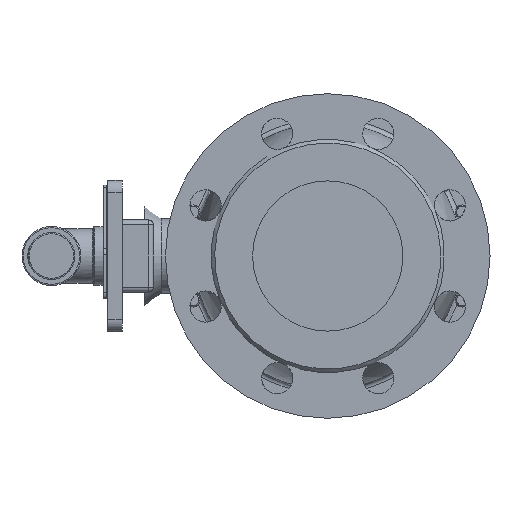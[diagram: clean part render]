
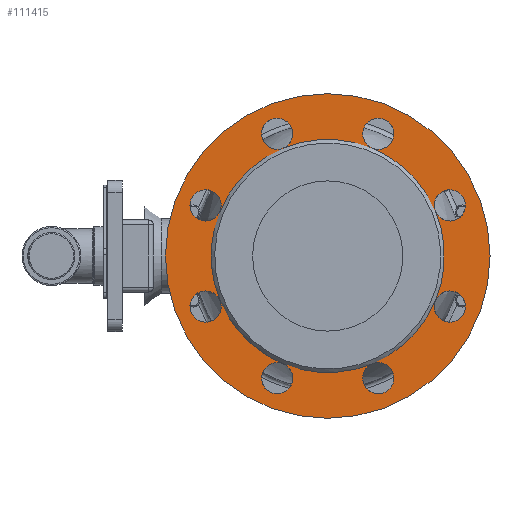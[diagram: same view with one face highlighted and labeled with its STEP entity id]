
A CAD part, left-side view. The second image highlights one B-rep face of the part: STEP entity #111415.
In plain terms, the highlighted planar face has unit normal (-1, 0, 0).
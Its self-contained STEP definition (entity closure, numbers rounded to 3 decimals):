
#111114=CARTESIAN_POINT('',(-150.0,37.12,-89.616));
#111115=VERTEX_POINT('',#111114);
#111116=CARTESIAN_POINT('',(-150.0,42.095,-101.627));
#111117=DIRECTION('',(1.0,0.0,0.0));
#111118=DIRECTION('',(0.0,0.0,1.0));
#111119=AXIS2_PLACEMENT_3D('',#111116,#111117,#111118);
#111120=CIRCLE('',#111119,13.0);
#111121=EDGE_CURVE('',#111115,#111115,#111120,.T.);
#111142=CARTESIAN_POINT('',(-150.0,-37.12,-89.616));
#111143=VERTEX_POINT('',#111142);
#111144=CARTESIAN_POINT('',(-150.0,-42.095,-101.627));
#111145=DIRECTION('',(1.0,0.0,0.0));
#111146=DIRECTION('',(0.0,0.0,1.0));
#111147=AXIS2_PLACEMENT_3D('',#111144,#111145,#111146);
#111148=CIRCLE('',#111147,13.0);
#111149=EDGE_CURVE('',#111143,#111143,#111148,.T.);
#111170=CARTESIAN_POINT('',(-150.0,-89.616,-37.12));
#111171=VERTEX_POINT('',#111170);
#111172=CARTESIAN_POINT('',(-150.0,-101.627,-42.095));
#111173=DIRECTION('',(1.0,0.0,0.0));
#111174=DIRECTION('',(0.0,0.0,1.0));
#111175=AXIS2_PLACEMENT_3D('',#111172,#111173,#111174);
#111176=CIRCLE('',#111175,13.0);
#111177=EDGE_CURVE('',#111171,#111171,#111176,.T.);
#111198=CARTESIAN_POINT('',(-150.0,-89.616,37.12));
#111199=VERTEX_POINT('',#111198);
#111200=CARTESIAN_POINT('',(-150.0,-101.627,42.095));
#111201=DIRECTION('',(1.0,0.0,0.0));
#111202=DIRECTION('',(0.0,0.0,1.0));
#111203=AXIS2_PLACEMENT_3D('',#111200,#111201,#111202);
#111204=CIRCLE('',#111203,13.0);
#111205=EDGE_CURVE('',#111199,#111199,#111204,.T.);
#111226=CARTESIAN_POINT('',(-150.0,-37.12,89.616));
#111227=VERTEX_POINT('',#111226);
#111228=CARTESIAN_POINT('',(-150.0,-42.095,101.627));
#111229=DIRECTION('',(1.0,0.0,0.0));
#111230=DIRECTION('',(0.0,0.0,1.0));
#111231=AXIS2_PLACEMENT_3D('',#111228,#111229,#111230);
#111232=CIRCLE('',#111231,13.0);
#111233=EDGE_CURVE('',#111227,#111227,#111232,.T.);
#111254=CARTESIAN_POINT('',(-150.0,37.12,89.616));
#111255=VERTEX_POINT('',#111254);
#111256=CARTESIAN_POINT('',(-150.0,42.095,101.627));
#111257=DIRECTION('',(1.0,0.0,0.0));
#111258=DIRECTION('',(0.0,0.0,1.0));
#111259=AXIS2_PLACEMENT_3D('',#111256,#111257,#111258);
#111260=CIRCLE('',#111259,13.0);
#111261=EDGE_CURVE('',#111255,#111255,#111260,.T.);
#111282=CARTESIAN_POINT('',(-150.0,89.616,37.12));
#111283=VERTEX_POINT('',#111282);
#111284=CARTESIAN_POINT('',(-150.0,101.627,42.095));
#111285=DIRECTION('',(1.0,0.0,0.0));
#111286=DIRECTION('',(0.0,0.0,1.0));
#111287=AXIS2_PLACEMENT_3D('',#111284,#111285,#111286);
#111288=CIRCLE('',#111287,13.0);
#111289=EDGE_CURVE('',#111283,#111283,#111288,.T.);
#111310=CARTESIAN_POINT('',(-150.0,89.616,-37.12));
#111311=VERTEX_POINT('',#111310);
#111312=CARTESIAN_POINT('',(-150.0,101.627,-42.095));
#111313=DIRECTION('',(1.0,0.0,0.0));
#111314=DIRECTION('',(0.0,0.0,1.0));
#111315=AXIS2_PLACEMENT_3D('',#111312,#111313,#111314);
#111316=CIRCLE('',#111315,13.0);
#111317=EDGE_CURVE('',#111311,#111311,#111316,.T.);
#111333=CARTESIAN_POINT('',(-150.0,-111.,0.0));
#111334=DIRECTION('',(-1.0,0.0,0.0));
#111335=DIRECTION('',(0.0,0.0,1.0));
#111336=AXIS2_PLACEMENT_3D('',#111333,#111334,#111335);
#111337=PLANE('',#111336);
#111338=CARTESIAN_POINT('',(-150.0,0.,135.0));
#111339=VERTEX_POINT('',#111338);
#111340=CARTESIAN_POINT('',(-150.0,0.,0.0));
#111341=DIRECTION('',(1.0,0.0,0.0));
#111342=DIRECTION('',(0.0,0.0,-1.0));
#111343=AXIS2_PLACEMENT_3D('',#111340,#111341,#111342);
#111344=CIRCLE('',#111343,135.0);
#111345=EDGE_CURVE('',#111339,#111339,#111344,.T.);
#111346=ORIENTED_EDGE('',*,*,#111345,.F.);
#111347=EDGE_LOOP('',(#111346));
#111348=FACE_OUTER_BOUND('',#111347,.T.);
#111349=CARTESIAN_POINT('',(-150.0,0.,0.0));
#111350=DIRECTION('',(-1.0,0.0,0.0));
#111351=DIRECTION('',(0.0,0.0,-1.0));
#111352=AXIS2_PLACEMENT_3D('',#111349,#111350,#111351);
#111353=CIRCLE('',#111352,97.);
#111354=EDGE_CURVE('',#111227,#111255,#111353,.T.);
#111355=ORIENTED_EDGE('',*,*,#111354,.F.);
#111356=ORIENTED_EDGE('',*,*,#111233,.T.);
#111357=CARTESIAN_POINT('',(-150.0,0.,0.0));
#111358=DIRECTION('',(-1.0,0.0,0.0));
#111359=DIRECTION('',(0.0,0.0,-1.0));
#111360=AXIS2_PLACEMENT_3D('',#111357,#111358,#111359);
#111361=CIRCLE('',#111360,97.);
#111362=EDGE_CURVE('',#111199,#111227,#111361,.T.);
#111363=ORIENTED_EDGE('',*,*,#111362,.F.);
#111364=ORIENTED_EDGE('',*,*,#111205,.T.);
#111365=CARTESIAN_POINT('',(-150.0,0.,0.0));
#111366=DIRECTION('',(-1.0,0.0,0.0));
#111367=DIRECTION('',(0.0,0.0,-1.0));
#111368=AXIS2_PLACEMENT_3D('',#111365,#111366,#111367);
#111369=CIRCLE('',#111368,97.);
#111370=EDGE_CURVE('',#111171,#111199,#111369,.T.);
#111371=ORIENTED_EDGE('',*,*,#111370,.F.);
#111372=ORIENTED_EDGE('',*,*,#111177,.T.);
#111373=CARTESIAN_POINT('',(-150.0,0.,0.0));
#111374=DIRECTION('',(-1.0,0.0,0.0));
#111375=DIRECTION('',(0.0,0.0,-1.0));
#111376=AXIS2_PLACEMENT_3D('',#111373,#111374,#111375);
#111377=CIRCLE('',#111376,97.);
#111378=EDGE_CURVE('',#111143,#111171,#111377,.T.);
#111379=ORIENTED_EDGE('',*,*,#111378,.F.);
#111380=ORIENTED_EDGE('',*,*,#111149,.T.);
#111381=CARTESIAN_POINT('',(-150.0,0.,0.0));
#111382=DIRECTION('',(-1.0,0.0,0.0));
#111383=DIRECTION('',(0.0,0.0,-1.0));
#111384=AXIS2_PLACEMENT_3D('',#111381,#111382,#111383);
#111385=CIRCLE('',#111384,97.);
#111386=EDGE_CURVE('',#111115,#111143,#111385,.T.);
#111387=ORIENTED_EDGE('',*,*,#111386,.F.);
#111388=ORIENTED_EDGE('',*,*,#111121,.T.);
#111389=CARTESIAN_POINT('',(-150.0,0.,0.0));
#111390=DIRECTION('',(-1.0,0.0,0.0));
#111391=DIRECTION('',(0.0,0.0,-1.0));
#111392=AXIS2_PLACEMENT_3D('',#111389,#111390,#111391);
#111393=CIRCLE('',#111392,97.);
#111394=EDGE_CURVE('',#111311,#111115,#111393,.T.);
#111395=ORIENTED_EDGE('',*,*,#111394,.F.);
#111396=ORIENTED_EDGE('',*,*,#111317,.T.);
#111397=CARTESIAN_POINT('',(-150.0,0.,0.0));
#111398=DIRECTION('',(-1.0,0.0,0.0));
#111399=DIRECTION('',(0.0,0.0,-1.0));
#111400=AXIS2_PLACEMENT_3D('',#111397,#111398,#111399);
#111401=CIRCLE('',#111400,97.);
#111402=EDGE_CURVE('',#111283,#111311,#111401,.T.);
#111403=ORIENTED_EDGE('',*,*,#111402,.F.);
#111404=ORIENTED_EDGE('',*,*,#111289,.T.);
#111405=CARTESIAN_POINT('',(-150.0,0.,0.0));
#111406=DIRECTION('',(-1.0,0.0,0.0));
#111407=DIRECTION('',(0.0,0.0,-1.0));
#111408=AXIS2_PLACEMENT_3D('',#111405,#111406,#111407);
#111409=CIRCLE('',#111408,97.);
#111410=EDGE_CURVE('',#111255,#111283,#111409,.T.);
#111411=ORIENTED_EDGE('',*,*,#111410,.F.);
#111412=ORIENTED_EDGE('',*,*,#111261,.T.);
#111413=EDGE_LOOP('',(#111355,#111356,#111363,#111364,#111371,#111372,#111379,#111380,#111387,#111388,#111395,#111396,#111403,#111404,#111411,#111412));
#111414=FACE_BOUND('',#111413,.T.);
#111415=ADVANCED_FACE('',(#111348,#111414),#111337,.T.);
